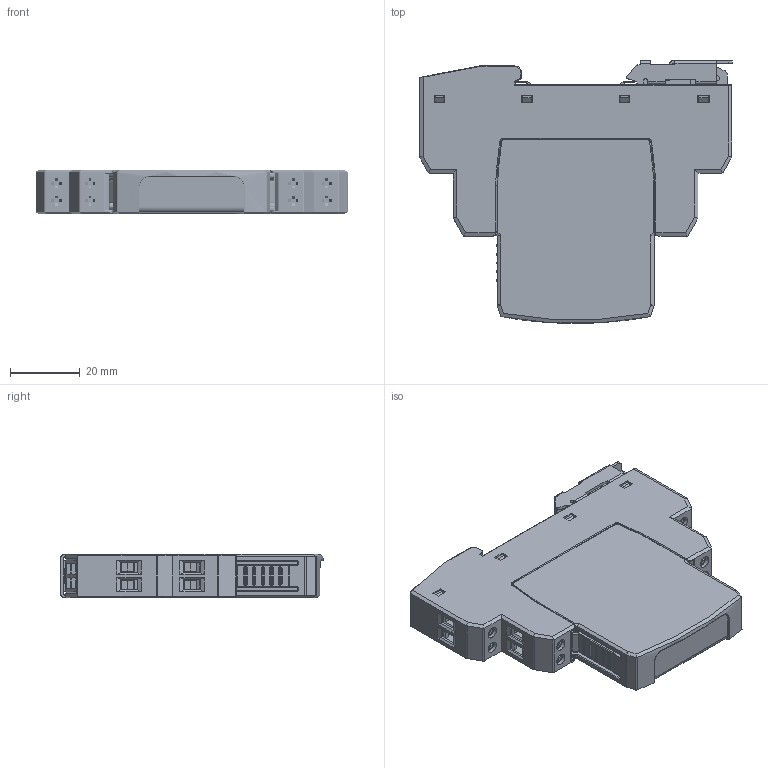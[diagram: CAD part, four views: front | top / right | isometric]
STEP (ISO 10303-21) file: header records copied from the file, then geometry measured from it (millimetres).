
FILE_DESCRIPTION(/* description */ ('Unknown'),/* implementation_level */ '2;1');
FILE_NAME(/* name */ 'SSPA0K5BT05',/* time_stamp */ '2023-04-10T10:18:55+08:00',/* author */ ('Unknown'),/* organization */ ('Unknown'),/* preprocessor_version */ 'ST-DEVELOPER v16.7',/* originating_system */ 'Solid Edge',/* authorisation */ 'Unknown');
FILE_SCHEMA (('AUTOMOTIVE_DESIGN {1 0 10303 214 3 1 1}'));
Products named in the file (1): SSPA0K5BT05
Bounding box: 89.8 x 75.33 x 12.5 mm (x, y, z)
Volume: 32201.3 mm3; surface area: 64623.2 mm2
Topology: 36 solids, 36 shells, 4245 faces, 12450 edges, 8298 vertices
Faces by surface type: plane 2876, cylinder 1148, torus 126, cone 53, bspline 35, sphere 7
Full cylindrical faces by diameter (mm): 2 x8, 2.5 x8, 3 x80, 3.3 x8, 3.9 x8
Entity records: 164608 total; most frequent: CARTESIAN_POINT 52687, ORIENTED_EDGE 24534, DIRECTION 21836, EDGE_CURVE 12267, LINE 8852, VECTOR 8852, VERTEX_POINT 8259, AXIS2_PLACEMENT_3D 6492
